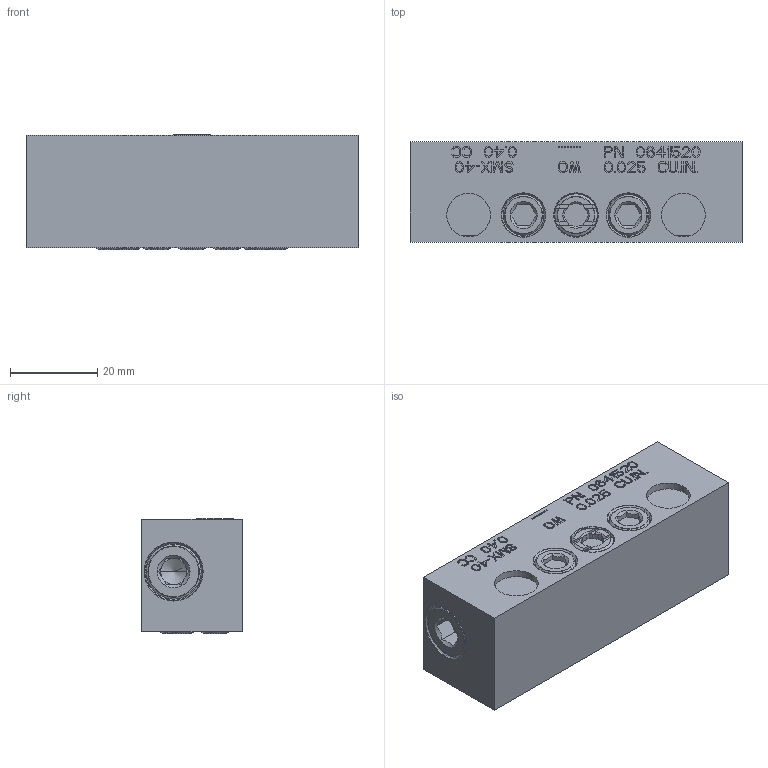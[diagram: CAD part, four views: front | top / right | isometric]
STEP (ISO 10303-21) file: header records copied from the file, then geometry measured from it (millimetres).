
FILE_DESCRIPTION((''),'2;1');
FILE_NAME('0641520_SMX_40','2023-07-21T09:49:35',('pietro.masciave'),(''),'CREO PARAMETRIC BY PTC INC, 2022281','CREO PARAMETRIC BY PTC INC, 2022281','');
FILE_SCHEMA(('CONFIG_CONTROL_DESIGN'));
Length unit declared in the file: millimetre
Products named in the file (1): 0641520_SMX_40
Bounding box: 76 x 23 x 26.33 mm (x, y, z)
Volume: 44001.6 mm3; surface area: 12685.4 mm2
Topology: 1 solids, 14 shells, 1274 faces, 3508 edges, 2331 vertices
Faces by surface type: plane 1102, cylinder 108, cone 42, torus 22
Entity records: 41094 total; most frequent: CARTESIAN_POINT 8397, ORIENTED_EDGE 6968, DIRECTION 6333, EDGE_CURVE 3504, VECTOR 3075, LINE 3075, VERTEX_POINT 2331, AXIS2_PLACEMENT_3D 1629
